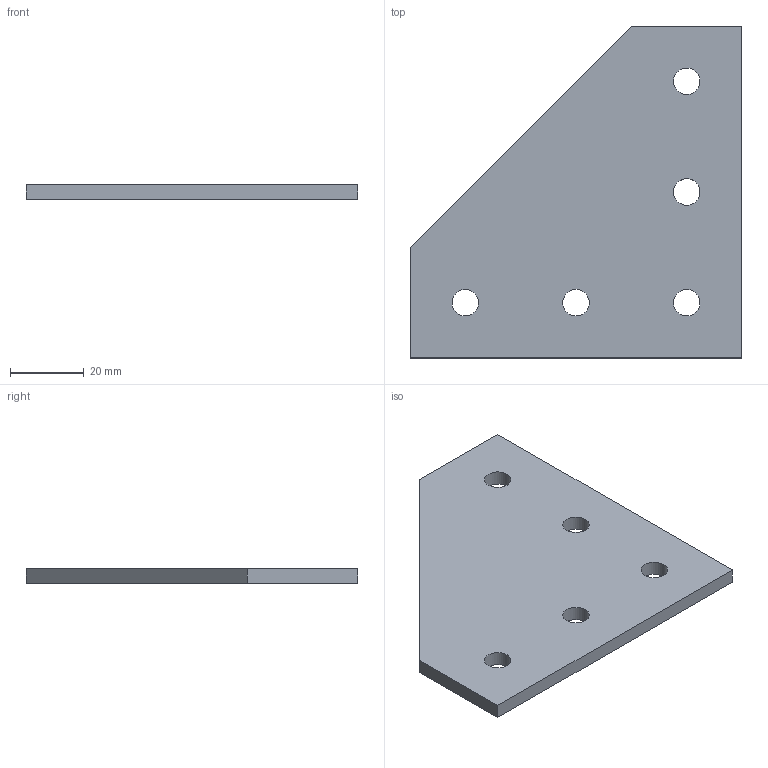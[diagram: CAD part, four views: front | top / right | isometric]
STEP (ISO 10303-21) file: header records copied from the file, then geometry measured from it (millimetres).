
FILE_DESCRIPTION(/* description */ (''),/* implementation_level */ '2;1');
FILE_NAME(/* name */ 'Plate Connector - 90 Degree - Single Slot - 30 Series - Aluminium - Silver.step',/* time_stamp */ '2025-10-28T04:39:43+03:00',/* author */ (''),/* organization */ (''),/* preprocessor_version */ 'ST-DEVELOPER v20.1',/* originating_system */ 'Autodesk Translation Framework v14.17.0.0',/* authorisation */ '');
FILE_SCHEMA (('AUTOMOTIVE_DESIGN { 1 0 10303 214 3 1 1 }'));
Length unit declared in the file: millimetre
Products named in the file (1): Plate Connector - 90 Degree - Single Slot - 30 Series - Aluminium - S
ilver
Bounding box: 90 x 90 x 4 mm (x, y, z)
Volume: 24385.7 mm3; surface area: 13944.7 mm2
Topology: 1 solids, 1 shells, 12 faces, 30 edges, 20 vertices
Faces by surface type: plane 7, cylinder 5
Full cylindrical faces by diameter (mm): 7.2 x5
Entity records: 417 total; most frequent: DIRECTION 66, CARTESIAN_POINT 63, ORIENTED_EDGE 60, EDGE_CURVE 30, AXIS2_PLACEMENT_3D 23, EDGE_LOOP 22, LINE 20, VECTOR 20
